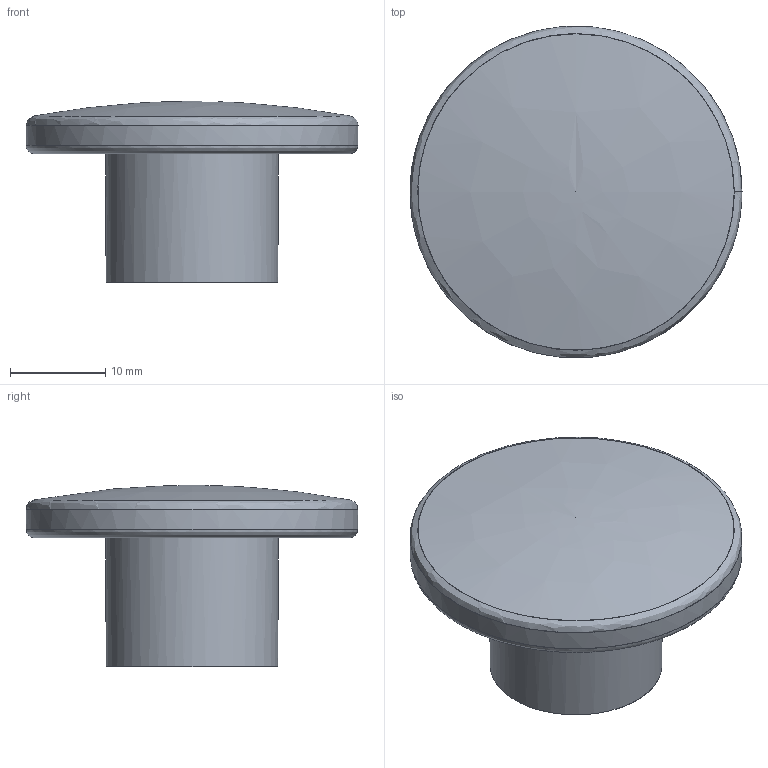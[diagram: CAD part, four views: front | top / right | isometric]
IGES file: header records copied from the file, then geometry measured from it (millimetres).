
Start section: C
Global section: file name: 8299-35.igs; native system: By Siemens PLM Incorporated; preprocessor: XPlus GENERIC/IGES 16.0.42; author: Author; organization: Title; date: 20220504.145124; units: millimetre
Bounding box: 34.8 x 34.71 x 19 mm (x, y, z)
Surface area: 4494.9 mm2 (no closed solid volume)
Topology: 0 solids, 0 shells, 14 faces, 90 edges, 88 vertices
Faces by surface type: bspline 14
